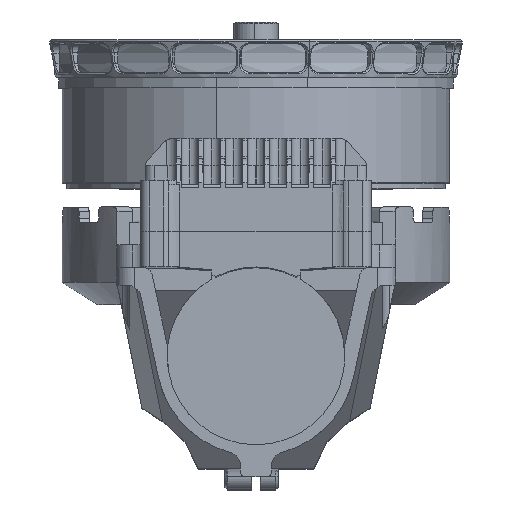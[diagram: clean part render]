
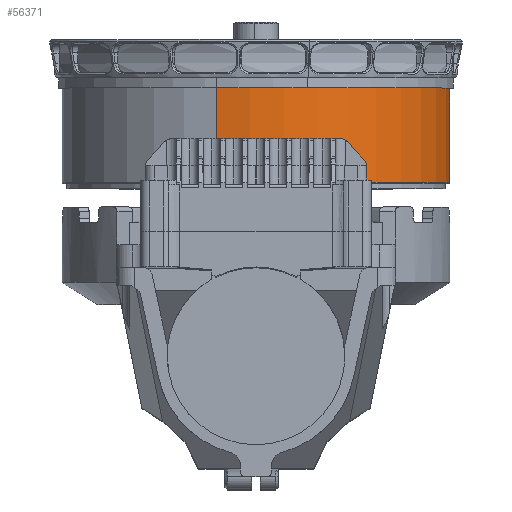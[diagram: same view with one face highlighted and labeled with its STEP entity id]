
A CAD part, top view. The second image highlights one B-rep face of the part: STEP entity #56371.
In plain terms, the highlighted cylindrical face has radius 43.75 mm (diameter 87.5 mm), a partial arc.
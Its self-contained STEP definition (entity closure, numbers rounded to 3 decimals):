
#4221 = CIRCLE ( 'NONE', #101676, 43.75 ) ;
#5623 = VERTEX_POINT ( 'NONE', #123655 ) ;
#6290 = CARTESIAN_POINT ( 'NONE',  ( -8.941, 62.9, 83.17 ) ) ;
#10842 = ORIENTED_EDGE ( 'NONE', *, *, #114806, .F. ) ;
#11837 = ORIENTED_EDGE ( 'NONE', *, *, #37993, .T. ) ;
#18927 = AXIS2_PLACEMENT_3D ( 'NONE', #182766, #83813, #153325 ) ;
#23438 = CARTESIAN_POINT ( 'NONE',  ( 0., 62.9, 40.344 ) ) ;
#27008 = LINE ( 'NONE', #83383, #52038 ) ;
#37993 = EDGE_CURVE ( 'NONE', #46184, #56366, #120186, .T. ) ;
#46184 = VERTEX_POINT ( 'NONE', #127265 ) ;
#46945 = EDGE_LOOP ( 'NONE', ( #10842, #11837, #159388, #50631 ) ) ;
#50631 = ORIENTED_EDGE ( 'NONE', *, *, #174678, .T. ) ;
#52038 = VECTOR ( 'NONE', #178761, 1000. ) ;
#56366 = VERTEX_POINT ( 'NONE', #6290 ) ;
#56371 = ADVANCED_FACE ( 'NONE', ( #62674 ), #119157, .T. ) ;
#57473 = EDGE_CURVE ( 'NONE', #56366, #122862, #27008, .T. ) ;
#62674 = FACE_OUTER_BOUND ( 'NONE', #46945, .T. ) ;
#67765 = VECTOR ( 'NONE', #140018, 1000. ) ;
#79831 = DIRECTION ( 'NONE',  ( 0., -1., 0. ) ) ;
#83383 = CARTESIAN_POINT ( 'NONE',  ( -8.941, 39.1, 83.17 ) ) ;
#83813 = DIRECTION ( 'NONE',  ( 0., -1., 0. ) ) ;
#84805 = CARTESIAN_POINT ( 'NONE',  ( 0., 39.35, 40.344 ) ) ;
#96595 = LINE ( 'NONE', #179823, #67765 ) ;
#101676 = AXIS2_PLACEMENT_3D ( 'NONE', #84805, #113552, #157915 ) ;
#113552 = DIRECTION ( 'NONE',  ( 0., 1., 0. ) ) ;
#114806 = EDGE_CURVE ( 'NONE', #46184, #5623, #96595, .T. ) ;
#117162 = AXIS2_PLACEMENT_3D ( 'NONE', #23438, #79831, #122472 ) ;
#119157 = CYLINDRICAL_SURFACE ( 'NONE', #18927, 43.75 ) ;
#120186 = CIRCLE ( 'NONE', #117162, 43.75 ) ;
#122472 = DIRECTION ( 'NONE',  ( -0.204, 0., 0.979 ) ) ;
#122862 = VERTEX_POINT ( 'NONE', #158209 ) ;
#123655 = CARTESIAN_POINT ( 'NONE',  ( 8.941, 39.35, -2.483 ) ) ;
#127265 = CARTESIAN_POINT ( 'NONE',  ( 8.941, 62.9, -2.483 ) ) ;
#140018 = DIRECTION ( 'NONE',  ( 0., -1., 0. ) ) ;
#153325 = DIRECTION ( 'NONE',  ( -0.204, 0., 0.979 ) ) ;
#157915 = DIRECTION ( 'NONE',  ( -0.204, 0., 0.979 ) ) ;
#158209 = CARTESIAN_POINT ( 'NONE',  ( -8.941, 39.35, 83.17 ) ) ;
#159388 = ORIENTED_EDGE ( 'NONE', *, *, #57473, .T. ) ;
#174678 = EDGE_CURVE ( 'NONE', #122862, #5623, #4221, .T. ) ;
#178761 = DIRECTION ( 'NONE',  ( 0., -1., 0. ) ) ;
#179823 = CARTESIAN_POINT ( 'NONE',  ( 8.941, 39.1, -2.483 ) ) ;
#182766 = CARTESIAN_POINT ( 'NONE',  ( 0., 39.1, 40.344 ) ) ;
